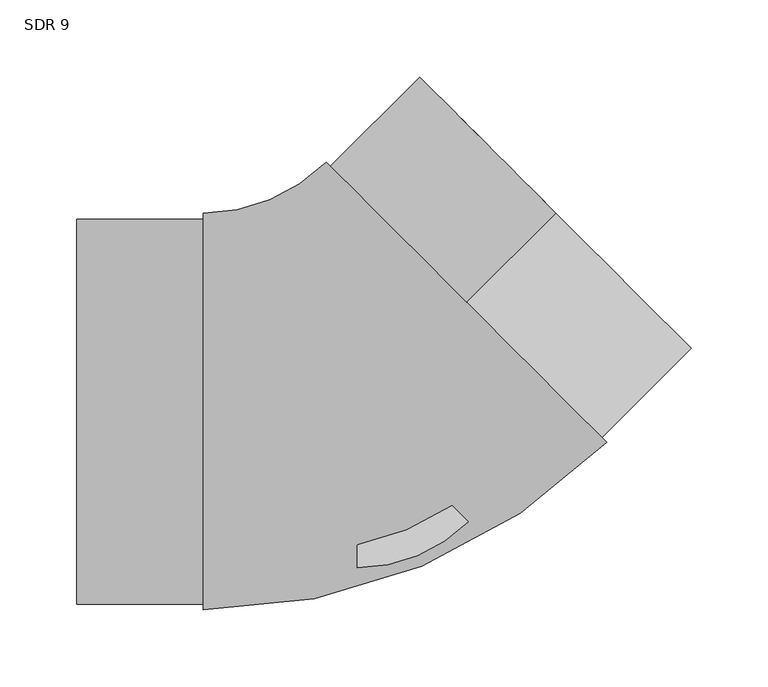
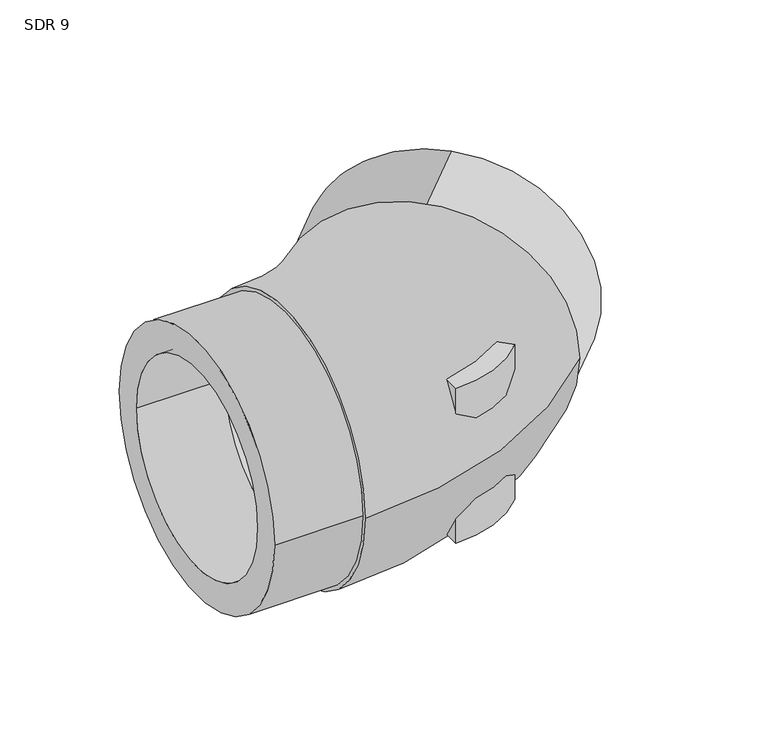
"""IFC4 building model written with IfcOpenShell, lengths in millimetres: pipe fitting geometry, Aquatherm - Elbow BW Molded : SDR 9."""

from ifc_helpers import new_model, si_unit, point, frame, frame_2d, origin, origin_with_axes, origin_2d, place, context, project, spatial, polyline, circle_curve, ellipse_curve, trimmed, segment, composite_curve, outline, extrude, source, transform, mapped, element, save
from ifc_brep_helpers import plane_surface, revolved_surface, advanced_brep


def sdr_9_2463390f(model_context):
    return source(origin(), model_context, "Body", "SolidModel", [
        extrude(outline(composite_curve([segment(polyline([(0.0, -101.6), (0.0, 0.0), (71.8527804, -71.831316)]), True, "CONTINUOUS"), segment(trimmed(circle_curve(origin_2d(), 101.6), [point((71.8527804, -71.831316))], [point((0.0, -101.6))], False, "CARTESIAN"), True, "CONTINUOUS")], self_intersect=False)), frame((0.0, 0.0, -76.2), z_axis=(0.0, 0.0, 1.0), x_axis=(1.0, 0.0, 0.0)), (0.0, 0.0, 1.0), 76.2),
        extrude(outline(composite_curve([segment(trimmed(circle_curve(origin_2d(), 101.6), [point((71.8527804, -71.831316))], [point((0.0, -101.6))], False, "CARTESIAN"), True, "CONTINUOUS"), segment(polyline([(0.0, -101.6), (0.0, 0.0), (71.8527804, -71.831316)]), True, "CONTINUOUS")], self_intersect=False)), origin_with_axes(), (0.0, 0.0, 1.0), 76.2),
        extrude(outline(composite_curve([segment(trimmed(circle_curve(frame_2d((0.0, -124.968)), 124.968), [point((0.0, -249.936))], [point((0.0, 0.0))], False, "CARTESIAN"), True, "CONTINUOUS"), segment(trimmed(circle_curve(frame_2d((0.0, -124.968)), 124.968), [point((0.0, 0.0))], [point((0.0, -249.936))], False, "CARTESIAN"), True, "CONTINUOUS")], self_intersect=False), holes=[composite_curve([segment(trimmed(circle_curve(frame_2d((0.0, -124.968)), 97.1973333), [point((0.0, -222.1653333))], [point((0.0, -27.7706667))], True, "CARTESIAN"), True, "CONTINUOUS"), segment(trimmed(circle_curve(frame_2d((0.0, -124.968)), 97.1973333), [point((0.0, -27.7706667))], [point((0.0, -222.1653333))], True, "CARTESIAN"), True, "CONTINUOUS")], self_intersect=False)]), frame((70.8166986, 70.8378598, 124.968), z_axis=(0.7070011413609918, 0.7072124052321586, 0.0), x_axis=(-0.7072124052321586, 0.7070011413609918, 0.0)), (0.0, 0.0, 1.0), 81.9531),
        extrude(outline(composite_curve([segment(trimmed(circle_curve(frame_2d((-0.1496481, 0.0)), 124.968), [point((124.8183519, 0.0))], [point((-125.1176481, 0.0))], False, "CARTESIAN"), True, "CONTINUOUS"), segment(trimmed(circle_curve(frame_2d((-0.1496481, 0.0)), 124.968), [point((-125.1176481, 0.0))], [point((124.8183519, 0.0))], False, "CARTESIAN"), True, "CONTINUOUS")], self_intersect=False), holes=[composite_curve([segment(trimmed(circle_curve(origin_2d(), 97.1973333), [point((97.1973333, 0.0))], [point((-97.1973333, 0.0))], True, "CARTESIAN"), True, "CONTINUOUS"), segment(trimmed(circle_curve(origin_2d(), 97.1973333), [point((-97.1973333, 0.0))], [point((97.1973333, 0.0))], True, "CARTESIAN"), True, "CONTINUOUS")], self_intersect=False)]), frame((-182.118, 0.0, 0.0), z_axis=(1.0, 0.0, 0.0), x_axis=(0.0, 1.0, 0.0)), (0.0, 0.0, 1.0), 81.9531),
        advanced_brep(
        [(-100.1649, -128.71704, 0.0), (-100.1649, 128.71704, 0.0), (-100.1649, -97.1973333, 0.0), (-100.1649, 97.1973333, 0.0), (161.8469861, -20.1652343, 0.0), (-20.2135888, 161.840954, 0.0), (139.5558585, 2.1192342, 0.0), (2.0775387, 139.5564855, 0.0)],
        [
            (0, 1, circle_curve(frame((-100.1649, 0.0, 0.0), z_axis=(-1.0, 0.0, 0.0), x_axis=(0.0, 1.0, 0.0)), 128.71704)),
            (1, 0, circle_curve(frame((-100.1649, 0.0, 0.0), z_axis=(-1.0, 0.0, 0.0), x_axis=(0.0, 1.0, 0.0)), 128.71704)),
            (2, 3, circle_curve(frame((-100.1649, 0.0, 0.0), z_axis=(1.0, 0.0, 0.0), x_axis=(0.0, 1.0, 0.0)), 97.1973333)),
            (3, 2, circle_curve(frame((-100.1649, 0.0, 0.0), z_axis=(1.0, 0.0, 0.0), x_axis=(0.0, 1.0, 0.0)), 97.1973333)),
            (4, 5, circle_curve(frame((70.8166986, 70.8378598, 0.0), z_axis=(0.7070011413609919, 0.7072124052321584, 0.0), x_axis=(-0.7072124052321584, 0.7070011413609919, 0.0)), 128.71704)),
            (5, 4, circle_curve(frame((70.8166986, 70.8378598, 0.0), z_axis=(0.7070011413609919, 0.7072124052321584, 0.0), x_axis=(-0.7072124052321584, 0.7070011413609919, 0.0)), 128.71704)),
            (6, 7, circle_curve(frame((70.8166986, 70.8378598, 0.0), z_axis=(-0.7070011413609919, -0.7072124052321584, 0.0), x_axis=(-0.7072124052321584, 0.7070011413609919, 0.0)), 97.1973333)),
            (7, 6, circle_curve(frame((70.8166986, 70.8378598, 0.0), z_axis=(-0.7070011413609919, -0.7072124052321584, 0.0), x_axis=(-0.7072124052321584, 0.7070011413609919, 0.0)), 97.1973333)),
            (5, 1, circle_curve(frame((-100.1649, 241.7683815, 0.0), z_axis=(0.0, 0.0, -1.0), x_axis=(0.0, -1.0, 0.0)), 113.0513415)),
            (0, 4, circle_curve(frame((-100.1649, 241.7683815, 0.0), z_axis=(0.0, 0.0, 1.0), x_axis=(0.0, -1.0, 0.0)), 370.4854215)),
            (7, 3, circle_curve(frame((-100.1649, 241.7683815, 0.0), z_axis=(0.0, 0.0, -1.0), x_axis=(0.0, -1.0, 0.0)), 144.5710482)),
            (2, 6, circle_curve(frame((-100.1649, 241.7683815, 0.0), z_axis=(0.0, 0.0, 1.0), x_axis=(0.0, -1.0, 0.0)), 338.9657149)),
        ],
        [
            plane_surface(frame((-100.1649, 0.0, 0.0), z_axis=(-1.0, 0.0, 0.0), x_axis=(0.0, 0.0, 1.0))),
            plane_surface(frame((70.8166986, 70.8378598, 0.0), z_axis=(0.7070011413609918, 0.7072124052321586, 0.0), x_axis=(0.0, 0.0, 1.0))),
            revolved_surface(trimmed(ellipse_curve(frame((-100.1649, 0.0, 0.0), z_axis=(-1.0, 0.0, 0.0), x_axis=(0.0, 1.0, 0.0)), 128.71704, 128.71704), [point((-100.1649, -128.71704, 0.0))], [point((-100.1649, 128.71704, 0.0))], True, "CARTESIAN"), (-100.1649, 241.7683815, 0.0), (0.0, 0.0, 1.0)),
            revolved_surface(trimmed(ellipse_curve(frame((-100.1649, 0.0, 0.0), z_axis=(-1.0, 0.0, 0.0), x_axis=(0.0, 1.0, 0.0)), 128.71704, 128.71704), [point((-100.1649, 128.71704, 0.0))], [point((-100.1649, -128.71704, 0.0))], True, "CARTESIAN"), (-100.1649, 241.7683815, 0.0), (0.0, 0.0, 1.0)),
            revolved_surface(trimmed(ellipse_curve(frame((-100.1649, 0.0, 0.0), z_axis=(1.0, 0.0, 0.0), x_axis=(0.0, 1.0, 0.0)), 97.1973333, 97.1973333), [point((-100.1649, -97.1973333, 0.0))], [point((-100.1649, 97.1973333, 0.0))], True, "CARTESIAN"), (-100.1649, 241.7683815, 0.0), (0.0, 0.0, 1.0)),
            revolved_surface(trimmed(ellipse_curve(frame((-100.1649, 0.0, 0.0), z_axis=(1.0, 0.0, 0.0), x_axis=(0.0, 1.0, 0.0)), 97.1973333, 97.1973333), [point((-100.1649, 97.1973333, 0.0))], [point((-100.1649, -97.1973333, 0.0))], True, "CARTESIAN"), (-100.1649, 241.7683815, 0.0), (0.0, 0.0, 1.0)),
        ],
        [
            (0, [[1, 2], [3, 4]]),
            (1, [[5, 6], [7, 8]]),
            (2, [[9, -1, 10, -6]]),
            (3, [[-10, -2, -9, -5]]),
            (4, [[11, -3, 12, -8]]),
            (5, [[-12, -4, -11, -7]]),
        ],
    ),
    ])


if __name__ == "__main__":
    model = new_model("IFC4")
    model_context = context("Model", 3, world=origin())
    ifc_project = project(units=[si_unit("LENGTHUNIT", "METRE", prefix="MILLI")], contexts=[model_context])
    site = spatial("IfcSite", under=ifc_project)
    building = spatial("IfcBuilding", under=site)
    placement = place(None, origin())
    sdr_9_shape = sdr_9_2463390f(model_context)
    element("IfcPipeFitting", 1, ObjectType="Aquatherm - Elbow BW Molded : SDR 9", at=placement, inside=building, context=model_context, shape_type="MappedRepresentation", body=[
        mapped(sdr_9_shape, transform((0.0, 0.0, 0.0), x_axis=(1.0, 0.0, 0.0), y_axis=(0.0, 1.0, 0.0), z_axis=(0.0, 0.0, 1.0))),
    ])
    save(model, "model.ifc")
